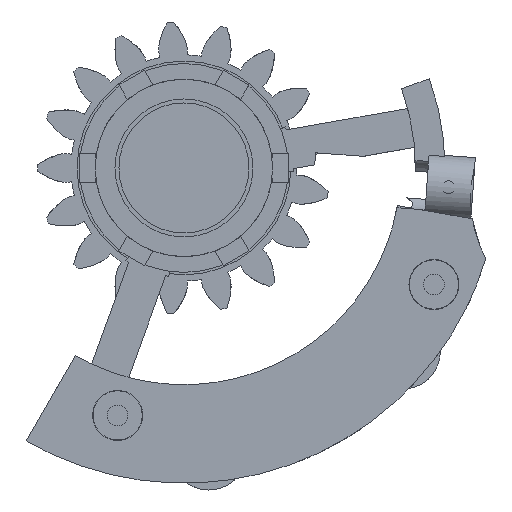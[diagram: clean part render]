
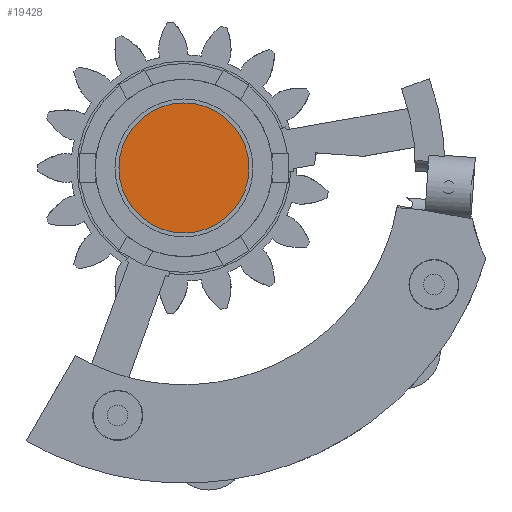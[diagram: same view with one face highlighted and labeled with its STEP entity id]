
A CAD part, left-side view. The second image highlights one B-rep face of the part: STEP entity #19428.
In plain terms, the highlighted planar face has unit normal (-1, 0, 0).
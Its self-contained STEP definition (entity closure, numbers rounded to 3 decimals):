
#19303 = CYLINDRICAL_SURFACE('',#19304,6.6);
#19304 = AXIS2_PLACEMENT_3D('',#19305,#19306,#19307);
#19305 = CARTESIAN_POINT('',(-64.07,-49.893,-53.918));
#19306 = DIRECTION('',(1.,0.,0.));
#19307 = DIRECTION('',(-0.,1.,0.));
#19374 = VERTEX_POINT('',#19375);
#19375 = CARTESIAN_POINT('',(-64.,-43.293,-53.918));
#19398 = EDGE_CURVE('',#19374,#19374,#19399,.T.);
#19399 = SURFACE_CURVE('',#19400,(#19405,#19412),.PCURVE_S1.);
#19400 = CIRCLE('',#19401,6.6);
#19401 = AXIS2_PLACEMENT_3D('',#19402,#19403,#19404);
#19402 = CARTESIAN_POINT('',(-64.,-49.893,-53.918));
#19403 = DIRECTION('',(1.,0.,0.));
#19404 = DIRECTION('',(-0.,1.,0.));
#19405 = PCURVE('',#19303,#19406);
#19406 = DEFINITIONAL_REPRESENTATION('',(#19407),#19411);
#19407 = LINE('',#19408,#19409);
#19408 = CARTESIAN_POINT('',(0.,0.07));
#19409 = VECTOR('',#19410,1.);
#19410 = DIRECTION('',(1.,0.));
#19411 = ( GEOMETRIC_REPRESENTATION_CONTEXT(2) 
PARAMETRIC_REPRESENTATION_CONTEXT() REPRESENTATION_CONTEXT('2D SPACE',''
  ) );
#19412 = PCURVE('',#19413,#19418);
#19413 = PLANE('',#19414);
#19414 = AXIS2_PLACEMENT_3D('',#19415,#19416,#19417);
#19415 = CARTESIAN_POINT('',(-64.,-49.893,-53.918));
#19416 = DIRECTION('',(1.,0.,0.));
#19417 = DIRECTION('',(-0.,1.,0.));
#19418 = DEFINITIONAL_REPRESENTATION('',(#19419),#19423);
#19419 = CIRCLE('',#19420,6.6);
#19420 = AXIS2_PLACEMENT_2D('',#19421,#19422);
#19421 = CARTESIAN_POINT('',(0.,0.));
#19422 = DIRECTION('',(1.,0.));
#19423 = ( GEOMETRIC_REPRESENTATION_CONTEXT(2) 
PARAMETRIC_REPRESENTATION_CONTEXT() REPRESENTATION_CONTEXT('2D SPACE',''
  ) );
#19428 = ADVANCED_FACE('',(#19429),#19413,.F.);
#19429 = FACE_BOUND('',#19430,.F.);
#19430 = EDGE_LOOP('',(#19431));
#19431 = ORIENTED_EDGE('',*,*,#19398,.T.);
